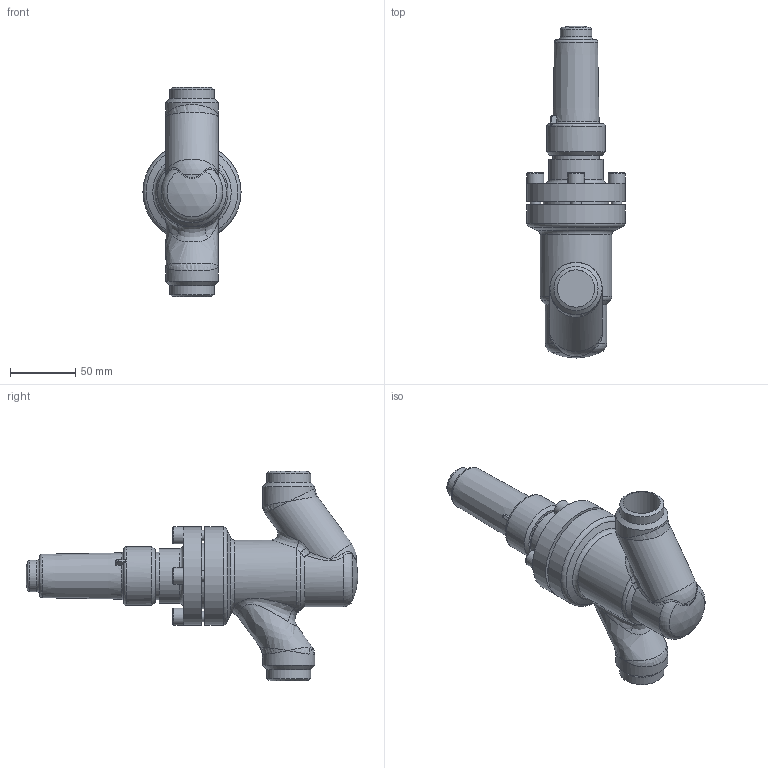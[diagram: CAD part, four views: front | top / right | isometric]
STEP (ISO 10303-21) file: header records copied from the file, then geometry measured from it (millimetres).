
FILE_DESCRIPTION((''),'2;1');
FILE_NAME('Y:\Home\AWP_CAD (2D+3D-Ansicht)\CAD Drawings\3D_STEP\AVR D AE\AVR D AE 26G00-025 PS25.stp','2012-08-27T09:20:18',('Lempe.Ha'),(''),'Autodesk Inventor 2012','Autodesk Inventor 2012','');
FILE_SCHEMA(('AUTOMOTIVE_DESIGN { 1 0 10303 214 1 1 1 1 }'));
Length unit declared in the file: millimetre
Products named in the file (5): 26G00C12A5A30000; 16G00E12.5034004; 26300E13.5141004; DIN 912 - ersetzt durch DIN EN ISO 4762 M8 x 25; 16402.13.3180003
Assembly tree (7 placements, depth 2):
  26G00C12A5A30000
    16G00E12.5034004
    26300E13.5141004
    DIN 912 - ersetzt durch DIN EN ISO 4762 M8 x 25  x4
    16402.13.3180003
Bounding box: 75 x 253.65 x 160 mm (x, y, z)
Volume: 353463 mm3; surface area: 108630.1 mm2
Topology: 6 solids, 7 shells, 200 faces, 443 edges, 270 vertices
Faces by surface type: plane 67, cylinder 56, cone 29, torus 23, bspline 22, sphere 3
Full cylindrical faces by diameter (mm): 6.647 x4, 8 x4, 9 x4, 13 x4, 16.7 x1, 21.7 x1, 24 x1, 25.6 x1, 26 x2, 27 x1, 28.5 x2, 30 x1, 32 x1, 33 x1, 33.7 x2, 33.835 x1, 36 x2, 36.5 x1, 37.5 x1, 39.1 x1, 40 x4, 42 x1, 43 x3, 45 x1, 48 x1, 50 x2, 75 x2
Entity records: 5194 total; most frequent: CARTESIAN_POINT 2133, DIRECTION 596, ORIENTED_EDGE 470, AXIS2_PLACEMENT_3D 284, EDGE_LOOP 261, EDGE_CURVE 235, VERTEX_POINT 186, FACE_OUTER_BOUND 155
